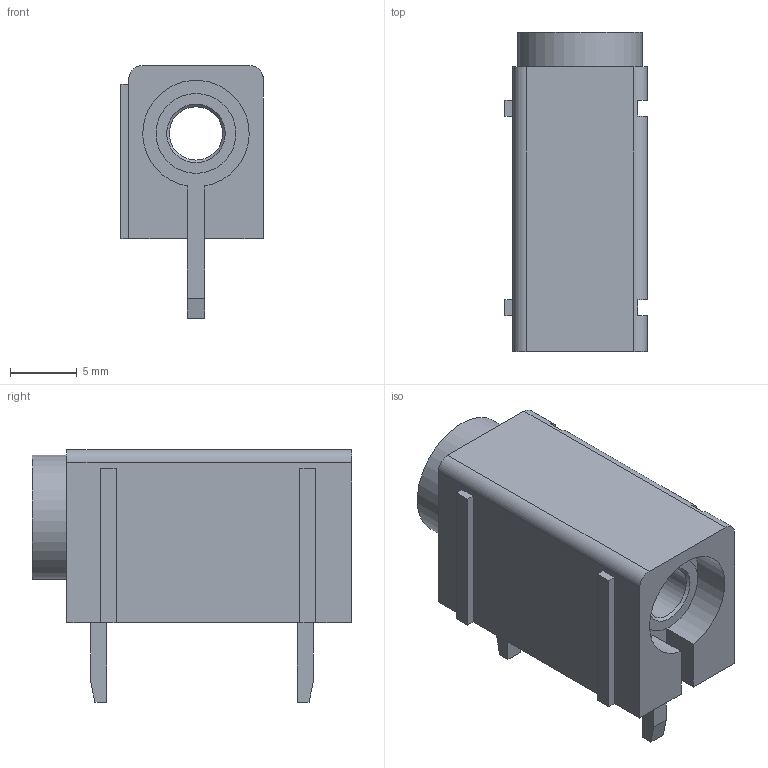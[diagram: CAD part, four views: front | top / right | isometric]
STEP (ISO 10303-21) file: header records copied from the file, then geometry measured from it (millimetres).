
FILE_DESCRIPTION(/* description */ ('Unknown'),/* implementation_level */ '2;1');
FILE_NAME(/* name */ '24.243.5',/* time_stamp */ '2024-07-05T14:47:36+02:00',/* author */ ('Unknown'),/* organization */ ('Unknown'),/* preprocessor_version */ 'ST-DEVELOPER v18.102',/* originating_system */ 'Solid Edge',/* authorisation */ 'Unknown');
FILE_SCHEMA (('AUTOMOTIVE_DESIGN {1 0 10303 214 3 1 1}'));
Length unit declared in the file: millimetre
Products named in the file (1): 24.243.5
Bounding box: 10.7 x 24 x 19 mm (x, y, z)
Volume: 2144.7 mm3; surface area: 2087.5 mm2
Topology: 1 solids, 1 shells, 64 faces, 172 edges, 113 vertices
Faces by surface type: plane 54, cylinder 8, cone 2
Full cylindrical faces by diameter (mm): 4 x1, 6 x2
Entity records: 2420 total; most frequent: CARTESIAN_POINT 343, ORIENTED_EDGE 332, DIRECTION 318, EDGE_CURVE 166, LINE 144, VECTOR 144, VERTEX_POINT 112, AXIS2_PLACEMENT_3D 87
